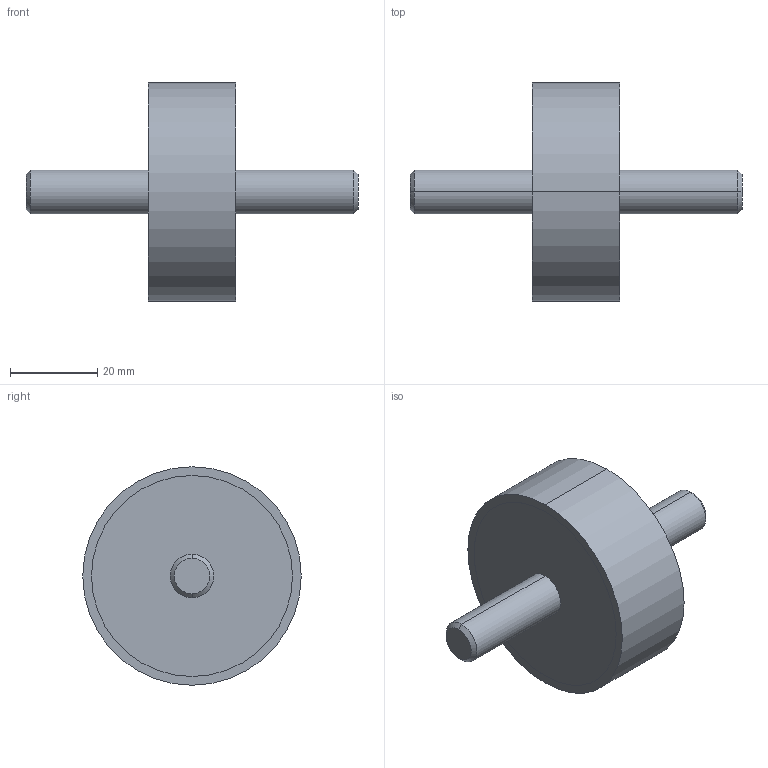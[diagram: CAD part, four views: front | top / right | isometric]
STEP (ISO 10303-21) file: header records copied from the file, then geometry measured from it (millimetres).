
FILE_DESCRIPTION (( 'STEP AP214' ), '1' );
FILE_NAME ('351-50-20-M10-SS-55.step', '2025-07-23T09:53:46', ( '' ), ( '' ), 'SwSTEP 2.0', 'SolidWorks 2022', '' );
FILE_SCHEMA (( 'AUTOMOTIVE_DESIGN' ));
Length unit declared in the file: millimetre
Products named in the file (1): 351-50-20-M10-SS-55
Bounding box: 76 x 50 x 50 mm (x, y, z)
Volume: 43609.9 mm3; surface area: 8794.1 mm2
Topology: 1 solids, 1 shells, 20 faces, 38 edges, 24 vertices
Faces by surface type: cylinder 10, plane 6, cone 4
Entity records: 636 total; most frequent: DIRECTION 104, CARTESIAN_POINT 83, ORIENTED_EDGE 76, AXIS2_PLACEMENT_3D 45, EDGE_CURVE 38, VERTEX_POINT 24, CIRCLE 24, EDGE_LOOP 24
